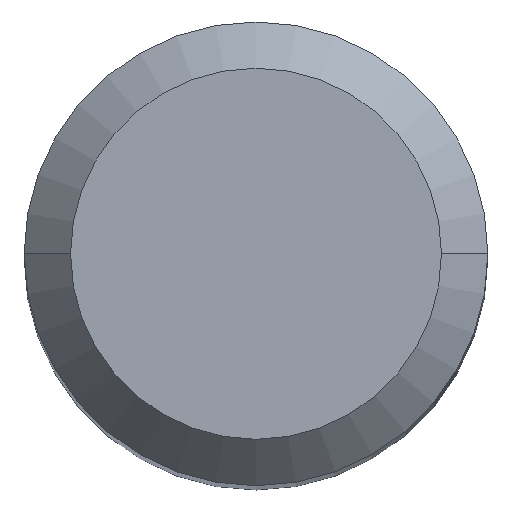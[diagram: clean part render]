
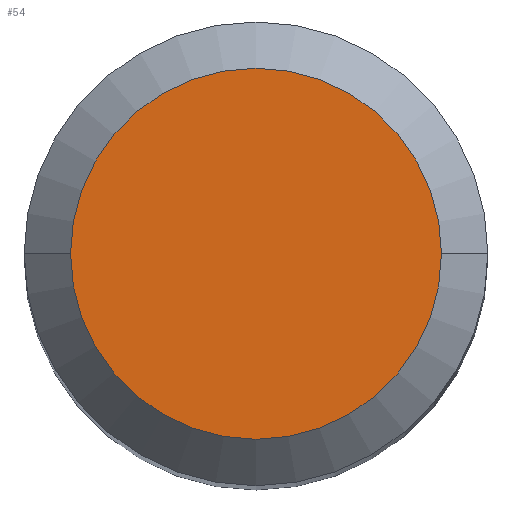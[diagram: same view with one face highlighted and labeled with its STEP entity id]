
A CAD part, top view. The second image highlights one B-rep face of the part: STEP entity #54.
In plain terms, the highlighted planar face has unit normal (0, 0, 1).
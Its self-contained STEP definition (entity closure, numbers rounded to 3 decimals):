
#17 = VERTEX_POINT ( 'NONE', #186 ) ;
#26 = CARTESIAN_POINT ( 'NONE',  ( 0., 0., 0. ) ) ;
#28 = DIRECTION ( 'NONE',  ( -1., 0., 0. ) ) ;
#54 = ADVANCED_FACE ( 'NONE', ( #347 ), #514, .T. ) ;
#70 = CIRCLE ( 'NONE', #243, 3.2 ) ;
#152 = EDGE_LOOP ( 'NONE', ( #359, #229 ) ) ;
#154 = DIRECTION ( 'NONE',  ( 0., 0., -1. ) ) ;
#166 = AXIS2_PLACEMENT_3D ( 'NONE', #304, #474, #260 ) ;
#186 = CARTESIAN_POINT ( 'NONE',  ( 3.2, 0., 0. ) ) ;
#202 = CIRCLE ( 'NONE', #213, 3.2 ) ;
#205 = DIRECTION ( 'NONE',  ( -1., 0., 0. ) ) ;
#213 = AXIS2_PLACEMENT_3D ( 'NONE', #236, #234, #205 ) ;
#229 = ORIENTED_EDGE ( 'NONE', *, *, #470, .F. ) ;
#234 = DIRECTION ( 'NONE',  ( 0., 0., -1. ) ) ;
#236 = CARTESIAN_POINT ( 'NONE',  ( 0., 0., 0. ) ) ;
#243 = AXIS2_PLACEMENT_3D ( 'NONE', #26, #154, #28 ) ;
#257 = VERTEX_POINT ( 'NONE', #341 ) ;
#260 = DIRECTION ( 'NONE',  ( 1., 0., 0. ) ) ;
#304 = CARTESIAN_POINT ( 'NONE',  ( 0., 3.2, 0. ) ) ;
#341 = CARTESIAN_POINT ( 'NONE',  ( -3.2, 0., 0. ) ) ;
#347 = FACE_OUTER_BOUND ( 'NONE', #152, .T. ) ;
#359 = ORIENTED_EDGE ( 'NONE', *, *, #373, .F. ) ;
#373 = EDGE_CURVE ( 'NONE', #257, #17, #70, .T. ) ;
#470 = EDGE_CURVE ( 'NONE', #17, #257, #202, .T. ) ;
#474 = DIRECTION ( 'NONE',  ( 0., 0., 1. ) ) ;
#514 = PLANE ( 'NONE',  #166 ) ;
